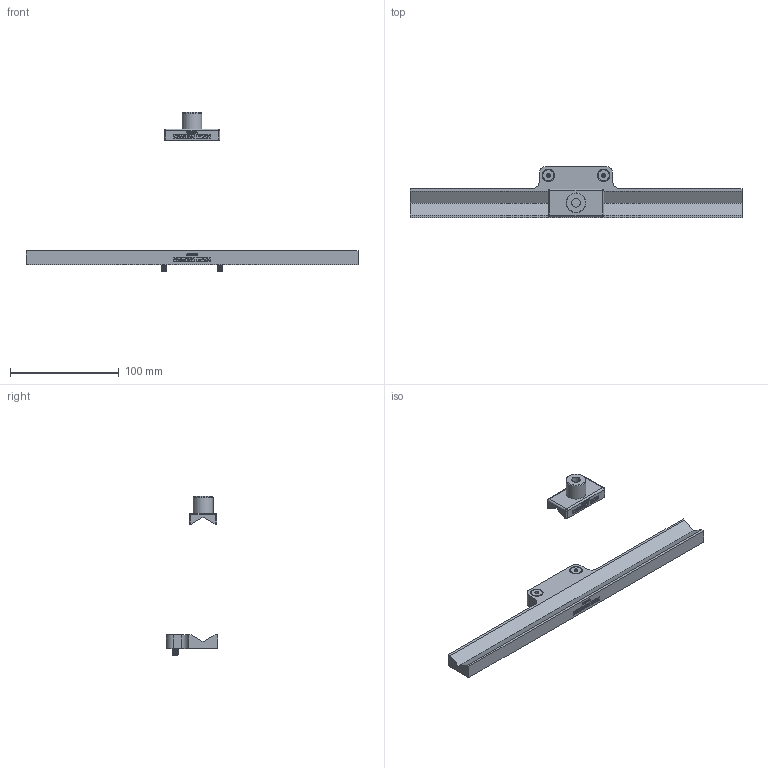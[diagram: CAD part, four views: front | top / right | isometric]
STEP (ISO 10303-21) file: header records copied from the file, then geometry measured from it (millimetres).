
FILE_DESCRIPTION((''),'2;1');
FILE_NAME('F:\CAD files\Itr\3D MARKETING MODELS\GRIPS\G1072\G1072.stp','2017-04-19T15:35:22',('mlampen'),(''),'Autodesk Inventor 2010','Autodesk Inventor 2010','');
FILE_SCHEMA(('AUTOMOTIVE_DESIGN { 1 0 10303 214 1 1 1 1 }'));
Length unit declared in the file: inch
Products named in the file (3): Assembly1; Part2; Part4
Assembly tree (2 placements, depth 2):
  Assembly1
    Part2
    Part4
Bounding box: 304.8 x 46.99 x 146.05 mm (x, y, z)
Volume: 112133.2 mm3; surface area: 35335.1 mm2
Topology: 4 solids, 4 shells, 1587 faces, 4336 edges, 2861 vertices
Faces by surface type: plane 1310, cylinder 154, cone 107, bspline 10, sphere 4, torus 2
Full cylindrical faces by diameter (mm): 4.178 x38, 4.826 x36, 5.105 x2, 7.938 x1, 18.288 x1
Entity records: 52460 total; most frequent: CARTESIAN_POINT 13310, ORIENTED_EDGE 8246, DIRECTION 7354, EDGE_CURVE 4123, VECTOR 3644, LINE 3644, VERTEX_POINT 2819, EDGE_LOOP 1866
